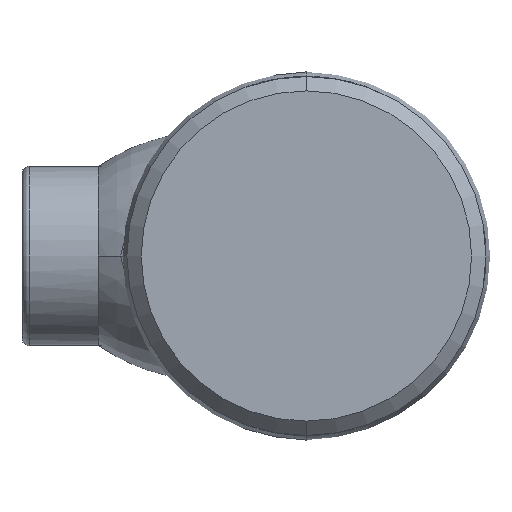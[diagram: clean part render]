
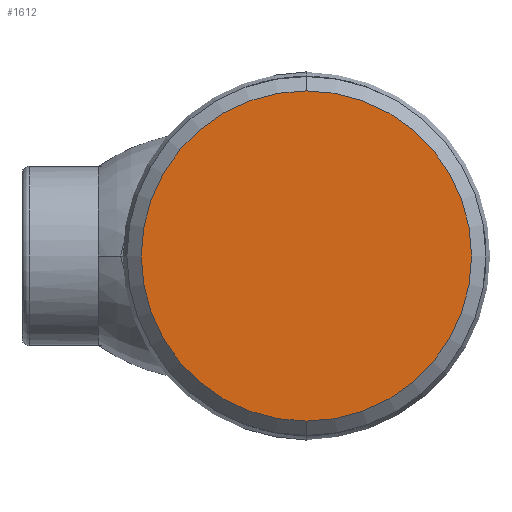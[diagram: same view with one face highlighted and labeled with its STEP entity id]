
A CAD part, left-side view. The second image highlights one B-rep face of the part: STEP entity #1612.
In plain terms, the highlighted planar face has unit normal (-1, 0, 0).
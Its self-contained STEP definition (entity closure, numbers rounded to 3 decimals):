
#75 = ORIENTED_EDGE ( 'NONE', *, *, #1332, .T. ) ;
#459 = AXIS2_PLACEMENT_3D ( 'NONE', #5507, #2476, #6008 ) ;
#563 = EDGE_CURVE ( 'NONE', #5905, #6456, #2767, .T. ) ;
#829 = CARTESIAN_POINT ( 'NONE',  ( 0., 0., 0. ) ) ;
#1192 = EDGE_LOOP ( 'NONE', ( #5756, #75 ) ) ;
#1332 = EDGE_CURVE ( 'NONE', #6456, #5905, #4968, .T. ) ;
#1432 = DIRECTION ( 'NONE',  ( -1., 0., 0. ) ) ;
#1612 = ADVANCED_FACE ( 'NONE', ( #1816 ), #4385, .F. ) ;
#1637 = CARTESIAN_POINT ( 'NONE',  ( 0., 0., 23. ) ) ;
#1816 = FACE_OUTER_BOUND ( 'NONE', #1192, .T. ) ;
#1859 = DIRECTION ( 'NONE',  ( 0., 0., -1. ) ) ;
#2476 = DIRECTION ( 'NONE',  ( -1., 0., 0. ) ) ;
#2767 = CIRCLE ( 'NONE', #4577, 23. ) ;
#2801 = CARTESIAN_POINT ( 'NONE',  ( 0., 0., -23. ) ) ;
#3215 = AXIS2_PLACEMENT_3D ( 'NONE', #829, #4883, #1859 ) ;
#4385 = PLANE ( 'NONE',  #3215 ) ;
#4471 = CARTESIAN_POINT ( 'NONE',  ( 0., 0., 0. ) ) ;
#4577 = AXIS2_PLACEMENT_3D ( 'NONE', #4471, #1432, #4976 ) ;
#4883 = DIRECTION ( 'NONE',  ( 1., 0., 0. ) ) ;
#4968 = CIRCLE ( 'NONE', #459, 23. ) ;
#4976 = DIRECTION ( 'NONE',  ( 0., 0., -1. ) ) ;
#5507 = CARTESIAN_POINT ( 'NONE',  ( 0., 0., 0. ) ) ;
#5756 = ORIENTED_EDGE ( 'NONE', *, *, #563, .T. ) ;
#5905 = VERTEX_POINT ( 'NONE', #2801 ) ;
#6008 = DIRECTION ( 'NONE',  ( 0., 0., -1. ) ) ;
#6456 = VERTEX_POINT ( 'NONE', #1637 ) ;
